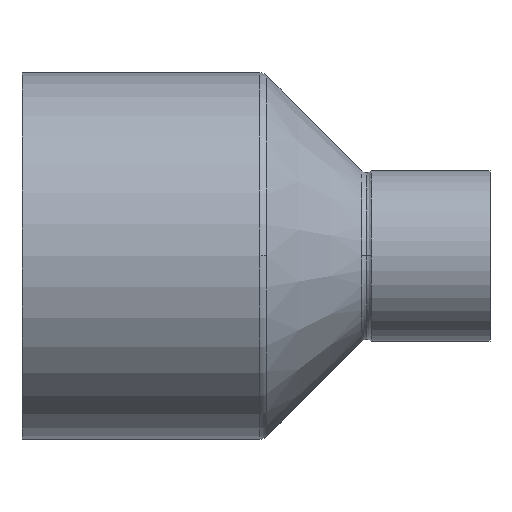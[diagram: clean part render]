
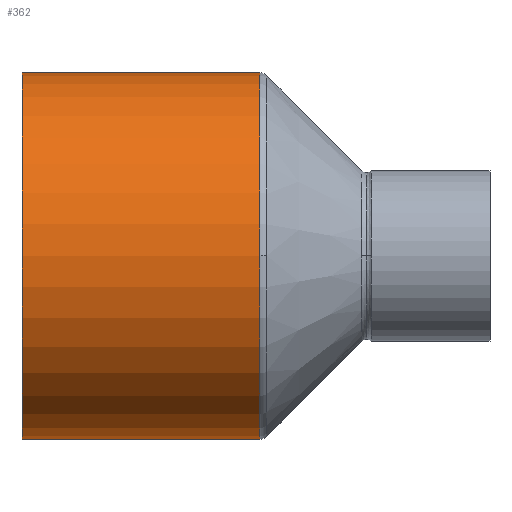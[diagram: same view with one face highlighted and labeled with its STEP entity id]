
A CAD part, top view. The second image highlights one B-rep face of the part: STEP entity #362.
In plain terms, the highlighted cylindrical face has radius 27 mm (diameter 54 mm), a partial arc.
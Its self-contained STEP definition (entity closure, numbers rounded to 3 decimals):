
#312=CARTESIAN_POINT('',(17.521,0.0,0.0));
#313=DIRECTION('',(1.0,0.0,0.0));
#314=DIRECTION('',(0.0,1.0,0.0));
#315=AXIS2_PLACEMENT_3D('',#312,#313,#314);
#316=CYLINDRICAL_SURFACE('',#315,27.0);
#317=CARTESIAN_POINT('',(0.,27.0,0.0));
#318=VERTEX_POINT('',#317);
#319=CARTESIAN_POINT('',(35.042,27.0,0.0));
#320=VERTEX_POINT('',#319);
#321=CARTESIAN_POINT('',(0.,27.0,0.0));
#322=DIRECTION('',(1.0,0.0,0.0));
#323=VECTOR('',#322,35.042);
#324=LINE('',#321,#323);
#325=EDGE_CURVE('',#318,#320,#324,.T.);
#326=ORIENTED_EDGE('',*,*,#325,.F.);
#327=CARTESIAN_POINT('',(0.,-27.0,0.));
#328=VERTEX_POINT('',#327);
#329=CARTESIAN_POINT('',(0.,0.0,0.0));
#330=DIRECTION('',(1.0,0.0,0.0));
#331=DIRECTION('',(0.0,1.0,0.0));
#332=AXIS2_PLACEMENT_3D('',#329,#330,#331);
#333=CIRCLE('',#332,27.0);
#334=EDGE_CURVE('',#318,#328,#333,.T.);
#335=ORIENTED_EDGE('',*,*,#334,.T.);
#336=CARTESIAN_POINT('',(35.042,-27.0,0.));
#337=VERTEX_POINT('',#336);
#338=CARTESIAN_POINT('',(35.042,-27.0,0.));
#339=DIRECTION('',(-1.0,0.0,0.0));
#340=VECTOR('',#339,35.042);
#341=LINE('',#338,#340);
#342=EDGE_CURVE('',#337,#328,#341,.T.);
#343=ORIENTED_EDGE('',*,*,#342,.F.);
#344=CARTESIAN_POINT('',(35.042,0.,27.0));
#345=VERTEX_POINT('',#344);
#346=CARTESIAN_POINT('',(35.042,0.0,0.0));
#347=DIRECTION('',(1.0,0.0,0.0));
#348=DIRECTION('',(0.0,1.0,0.0));
#349=AXIS2_PLACEMENT_3D('',#346,#347,#348);
#350=CIRCLE('',#349,27.0);
#351=EDGE_CURVE('',#345,#337,#350,.T.);
#352=ORIENTED_EDGE('',*,*,#351,.F.);
#353=CARTESIAN_POINT('',(35.042,0.0,0.0));
#354=DIRECTION('',(1.0,0.0,0.0));
#355=DIRECTION('',(0.0,1.0,0.0));
#356=AXIS2_PLACEMENT_3D('',#353,#354,#355);
#357=CIRCLE('',#356,27.0);
#358=EDGE_CURVE('',#320,#345,#357,.T.);
#359=ORIENTED_EDGE('',*,*,#358,.F.);
#360=EDGE_LOOP('',(#326,#335,#343,#352,#359));
#361=FACE_OUTER_BOUND('',#360,.T.);
#362=ADVANCED_FACE('',(#361),#316,.T.);
